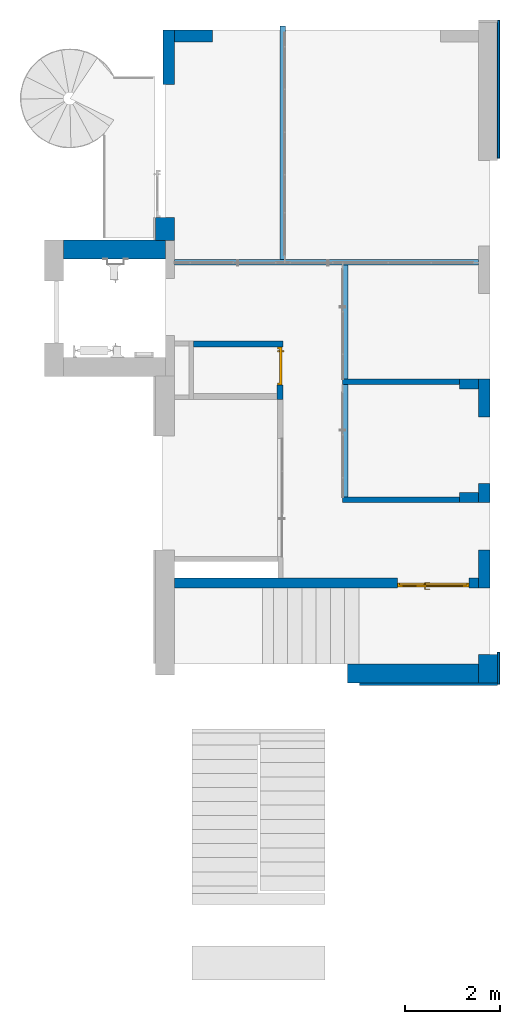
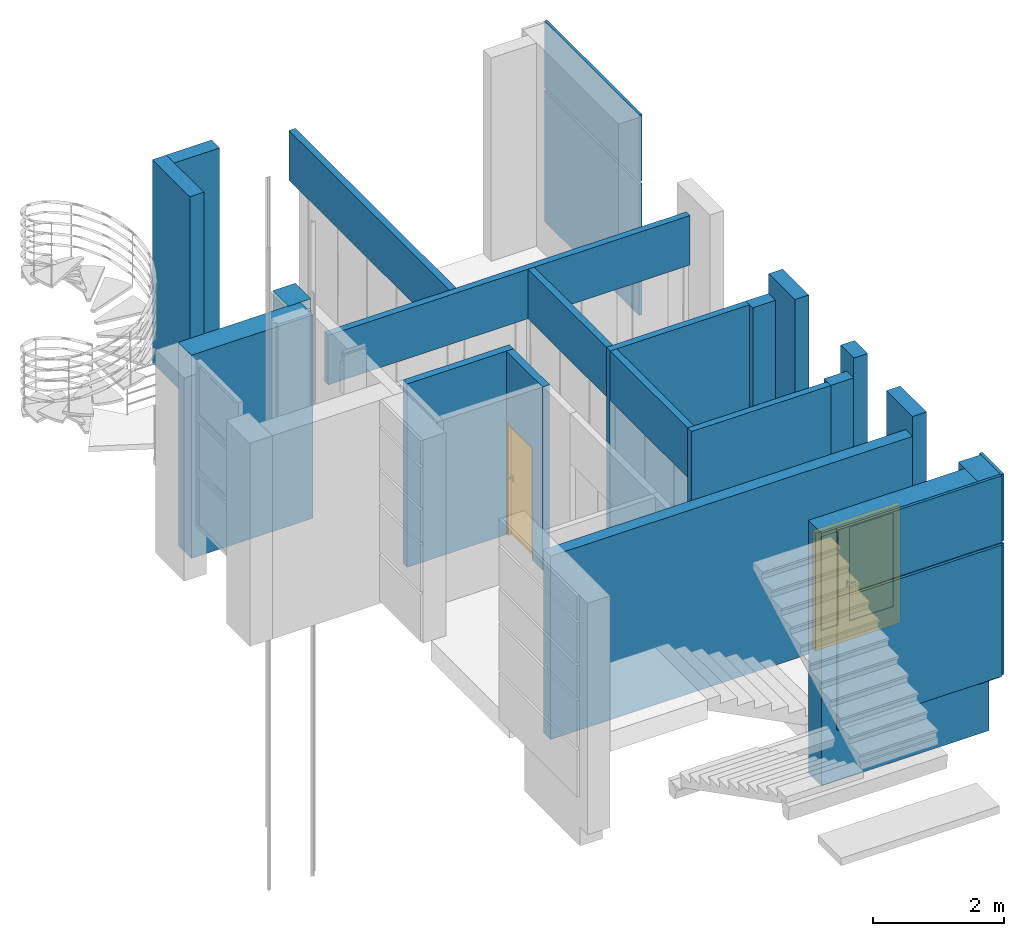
# One storey, part 6 of 14: 22 walls, 2 doors, 3 openings.
"""IFC2X3 building model written with IfcOpenShell, lengths in millimetres."""

from ifc_helpers import new_model, entity, si_unit, converted_unit, derived_unit, direction, frame, frame_2d, origin, origin_2d_with_axis, place, context, subcontext, project, spatial, rectangle, extrude, faceted_brep, source, transform, mapped, material, material_list, layer, layer_set, layer_usage, type_object, type_shapes, element, fill, save


model = new_model("IFC2X3")

# Units and contexts
model_context = context("Model", 3, precision=0.01, world=origin(), true_north=direction((6.12303176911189e-17, 1.0)))
body_context = subcontext(model_context, "Body", "Model", "MODEL_VIEW")
ifc_project = project(units=[si_unit("LENGTHUNIT", "METRE", prefix="MILLI"), si_unit("AREAUNIT", "SQUARE_METRE"), si_unit("VOLUMEUNIT", "CUBIC_METRE"), converted_unit("PLANEANGLEUNIT", "DEGREE", entity("IfcRatioMeasure", 0.0174532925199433), si_unit("PLANEANGLEUNIT", "RADIAN"), dimensions=[0, 0, 0, 0, 0, 0, 0]), si_unit("MASSUNIT", "GRAM", prefix="KILO"), derived_unit("MASSDENSITYUNIT", [(si_unit("MASSUNIT", "GRAM", prefix="KILO"), 1), (si_unit("LENGTHUNIT", "METRE"), -3)]), si_unit("TIMEUNIT", "SECOND"), si_unit("FREQUENCYUNIT", "HERTZ"), si_unit("THERMODYNAMICTEMPERATUREUNIT", "DEGREE_CELSIUS"), derived_unit("THERMALTRANSMITTANCEUNIT", [(si_unit("MASSUNIT", "GRAM", prefix="KILO"), 1), (si_unit("THERMODYNAMICTEMPERATUREUNIT", "KELVIN"), -1), (si_unit("TIMEUNIT", "SECOND"), -3)]), derived_unit("VOLUMETRICFLOWRATEUNIT", [(si_unit("LENGTHUNIT", "METRE"), 3), (si_unit("TIMEUNIT", "SECOND"), -1)]), si_unit("ELECTRICCURRENTUNIT", "AMPERE"), si_unit("ELECTRICVOLTAGEUNIT", "VOLT"), si_unit("POWERUNIT", "WATT"), si_unit("FORCEUNIT", "NEWTON", prefix="KILO"), si_unit("ILLUMINANCEUNIT", "LUX"), si_unit("LUMINOUSFLUXUNIT", "LUMEN"), si_unit("LUMINOUSINTENSITYUNIT", "CANDELA"), derived_unit("USERDEFINED", [(si_unit("MASSUNIT", "GRAM", prefix="KILO"), -1), (si_unit("LENGTHUNIT", "METRE"), -2), (si_unit("TIMEUNIT", "SECOND"), 3), (si_unit("LUMINOUSFLUXUNIT", "LUMEN"), 1)]), derived_unit("LINEARVELOCITYUNIT", [(si_unit("LENGTHUNIT", "METRE"), 1), (si_unit("TIMEUNIT", "SECOND"), -1)]), si_unit("PRESSUREUNIT", "PASCAL"), derived_unit("USERDEFINED", [(si_unit("LENGTHUNIT", "METRE"), -2), (si_unit("MASSUNIT", "GRAM", prefix="KILO"), 1), (si_unit("TIMEUNIT", "SECOND"), -2)])], contexts=[model_context])

# Site, building, storey
site_placement = place(None, frame((-151.875543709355, 2715.0, 0.0)))
site = spatial("IfcSite", under=ifc_project, at=site_placement, Name="Surface", CompositionType="ELEMENT")
building_placement = place(site_placement, origin())
building = spatial("IfcBuilding", under=site, at=building_placement, CompositionType="ELEMENT")
storey_placement = place(building_placement, frame((0.0, 0.0, 3875.0)))
storey = spatial("IfcBuildingStorey", under=building, at=storey_placement, Name="uus 2 korrus", CompositionType="ELEMENT", Elevation=3875.00000000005)

# Walls
ifc_material_1 = material(Name="__Kips GN13_tava")
ifc_layer_1 = layer(ifc_material_1, 12.5)
ifc_layer_2 = layer(ifc_material_1, 12.5)
ifc_material_2 = material(Name="__Soojustus EPS")
ifc_layer_3 = layer(ifc_material_2, 66.0)
ifc_layer_4 = layer(ifc_material_1, 12.5)
ifc_layer_5 = layer(ifc_material_1, 12.5)
ifc_layer_set_1 = layer_set([ifc_layer_1, ifc_layer_2, ifc_layer_3, ifc_layer_4, ifc_layer_5], Name="Basic Wall:SS-3_Kipssein tava ruumide vahel")
ifc_layer_usage_1 = layer_usage(ifc_layer_set_1, "AXIS2", "NEGATIVE", 58.0)
wall_type_1 = type_object("IfcWallType", Name="Basic Wall:SS-3_Kipssein tava ruumide vahel", PredefinedType="STANDARD", material=ifc_layer_set_1)
wall_1_placement = place(storey_placement, frame((35530.8324752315, 16668.0448732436, 0.0)))
element("IfcWallStandardCase", 1, at=wall_1_placement, inside=storey, type_object=wall_type_1, material=ifc_layer_usage_1, Name="Basic Wall:SS-3_Kipssein tava ruumide vahel", ObjectType="Basic Wall:SS-3_Kipssein tava ruumide vahel", context=body_context, shape_type="SweptSolid", body=[
    extrude(rectangle(XDim=2464.2837929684, YDim=116.0, at=frame_2d((1232.1418964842, -2.30926389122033e-13), x_axis=(-1.0, 0.0))), origin(), (0.0, 0.0, 1.0), 3425.0),
])
ifc_layer_usage_2 = layer_usage(ifc_layer_set_1, "AXIS2", "NEGATIVE", 58.0)
wall_2_placement = place(storey_placement, frame((35530.8324752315, 19152.0897464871, 0.0)))
element("IfcWallStandardCase", 2, at=wall_2_placement, inside=storey, type_object=wall_type_1, material=ifc_layer_usage_2, Name="Basic Wall:SS-3_Kipssein tava ruumide vahel", ObjectType="Basic Wall:SS-3_Kipssein tava ruumide vahel", context=body_context, shape_type="SweptSolid", body=[
    extrude(rectangle(XDim=2464.2837929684, YDim=116.0, at=frame_2d((1232.1418964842, -2.30926389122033e-13), x_axis=(-1.0, 0.0))), origin(), (0.0, 0.0, 1.0), 3425.0),
])
ifc_layer_usage_3 = layer_usage(ifc_layer_set_1, "AXIS2", "NEGATIVE", 58.0)
wall_3_placement = place(storey_placement, frame((32001.6162682, 21668.0, 2500.0)))
element("IfcWallStandardCase", 3, at=wall_3_placement, inside=storey, type_object=wall_type_1, material=ifc_layer_usage_3, Name="Basic Wall:SS-3_Kipssein tava ruumide vahel", ObjectType="Basic Wall:SS-3_Kipssein tava ruumide vahel", context=body_context, shape_type="SweptSolid", body=[
    extrude(rectangle(XDim=6394.99999999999, YDim=116.0, at=frame_2d((3197.49999999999, -2.87769807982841e-13), x_axis=(-1.0, 0.0))), origin(), (0.0, 0.0, 1.0), 924.999999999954),
])
ifc_layer_usage_4 = layer_usage(ifc_layer_set_1, "AXIS2", "NEGATIVE", 58.0)
wall_4_placement = place(storey_placement, frame((34273.319652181, 26643.0, 2500.0), z_axis=(0.0, 0.0, 1.0), x_axis=(0.0, -1.0, 0.0)))
element("IfcWallStandardCase", 4, at=wall_4_placement, inside=storey, type_object=wall_type_1, material=ifc_layer_usage_4, Name="Basic Wall:SS-3_Kipssein tava ruumide vahel", ObjectType="Basic Wall:SS-3_Kipssein tava ruumide vahel", context=body_context, shape_type="SweptSolid", body=[
    extrude(rectangle(XDim=4917.00002656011, YDim=116.0, at=frame_2d((2458.50001328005, 2.66453525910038e-13), x_axis=(-1.0, 0.0))), origin(), (0.0, 0.0, 1.0), 924.999999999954),
])
ifc_layer_usage_5 = layer_usage(ifc_layer_set_1, "AXIS2", "NEGATIVE", 58.0)
wall_5_placement = place(storey_placement, frame((35588.8324752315, 19094.0897464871, 2500.0), z_axis=(0.0, 0.0, 1.0), x_axis=(0.0, -1.0, 0.0)))
element("IfcWallStandardCase", 5, at=wall_5_placement, inside=storey, type_object=wall_type_1, material=ifc_layer_usage_5, Name="Basic Wall:SS-3_Kipssein tava ruumide vahel", ObjectType="Basic Wall:SS-3_Kipssein tava ruumide vahel", context=body_context, shape_type="SweptSolid", body=[
    extrude(rectangle(XDim=2368.04487324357, YDim=116.0, at=frame_2d((1184.02243662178, -1.56319401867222e-13), x_axis=(-1.0, 0.0))), origin(), (0.0, 0.0, 1.0), 925.0),
])
ifc_layer_usage_6 = layer_usage(ifc_layer_set_1, "AXIS2", "NEGATIVE", 58.0)
wall_6_placement = place(storey_placement, frame((35588.8324752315, 21610.0, 2500.0), z_axis=(0.0, 0.0, 1.0), x_axis=(0.0, -1.0, 0.0)))
element("IfcWallStandardCase", 6, at=wall_6_placement, inside=storey, type_object=wall_type_1, material=ifc_layer_usage_6, Name="Basic Wall:SS-3_Kipssein tava ruumide vahel", ObjectType="Basic Wall:SS-3_Kipssein tava ruumide vahel", context=body_context, shape_type="SweptSolid", body=[
    extrude(rectangle(XDim=2399.91025351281, YDim=116.0, at=frame_2d((1199.9551267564, -7.105427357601e-14), x_axis=(-1.0, 0.0))), origin(), (0.0, 0.0, 1.0), 924.999999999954),
])
ifc_material_3 = material(Name="__Tuuletõkkeplaat")
ifc_layer_6 = layer(ifc_material_3, 9.0)
ifc_layer_7 = layer(ifc_material_2, 200.0)
ifc_material_4 = material(Name="__Kergblokk")
ifc_layer_8 = layer(ifc_material_4, 190.0)
ifc_layer_set_2 = layer_set([ifc_layer_6, ifc_layer_7, ifc_layer_8], Name="Basic Wall:VS-2.2_Juurdeehituse välissein")
ifc_layer_usage_7 = layer_usage(ifc_layer_set_2, "AXIS2", "POSITIVE", -199.5)
wall_type_2 = type_object("IfcWallType", Name="Basic Wall:VS-2.2_Juurdeehituse välissein", PredefinedType="STANDARD", material=ifc_layer_set_2)
wall_7_placement = place(storey_placement, frame((38596.1162681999, 12811.0, 0.0), z_axis=(0.0, 0.0, 1.0), x_axis=(0.0, 1.0, 0.0)))
element("IfcWallStandardCase", 7, at=wall_7_placement, inside=storey, type_object=wall_type_2, material=ifc_layer_usage_7, Name="Basic Wall:VS-2.2_Juurdeehituse välissein", ObjectType="Basic Wall:VS-2.2_Juurdeehituse välissein", context=body_context, shape_type="SweptSolid", body=[
    extrude(rectangle(XDim=598.955126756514, YDim=398.999999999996, at=frame_2d((299.477563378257, 1.4210854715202e-14), x_axis=(-1.0, 0.0))), origin(), (0.0, 0.0, 1.0), 3795.0),
])
ifc_layer_usage_8 = layer_usage(ifc_layer_set_2, "AXIS2", "POSITIVE", -199.5)
wall_8_placement = place(storey_placement, frame((35636.6162682, 13010.5000000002, -925.0)))
element("IfcWallStandardCase", 8, at=wall_8_placement, inside=storey, type_object=wall_type_2, material=ifc_layer_usage_8, Name="Basic Wall:VS-2.2_Juurdeehituse välissein", ObjectType="Basic Wall:VS-2.2_Juurdeehituse välissein", context=body_context, shape_type="SweptSolid", body=[
    extrude(rectangle(XDim=2959.50000000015, YDim=399.0, at=frame_2d((1479.75000000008, 1.56319401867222e-13), x_axis=(-1.0, 0.0))), origin(), (0.0, 0.0, 1.0), 4719.99999999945),
])
ifc_layer_usage_9 = layer_usage(ifc_layer_set_2, "AXIS2", "POSITIVE", -199.5)
wall_9_placement = place(storey_placement, frame((31811.6162682, 21939.5000001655, 0.0), z_axis=(0.0, 0.0, 1.0), x_axis=(-1.0, 0.0, 0.0)))
element("IfcWallStandardCase", 9, at=wall_9_placement, inside=storey, type_object=wall_type_2, material=ifc_layer_usage_9, Name="Basic Wall:VS-2.2_Juurdeehituse välissein", ObjectType="Basic Wall:VS-2.2_Juurdeehituse välissein", context=body_context, shape_type="SweptSolid", body=[
    extrude(rectangle(XDim=2149.99850106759, YDim=398.999999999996, at=frame_2d((1074.99925053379, 1.27897692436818e-13), x_axis=(-1.0, 0.0))), origin(), (0.0, 0.0, 1.0), 3795.0),
])
ifc_layer_usage_10 = layer_usage(ifc_layer_set_2, "AXIS2", "NEGATIVE", 199.5)
wall_10_placement = place(storey_placement, frame((31802.1162682, 22130.0, 0.0), z_axis=(0.0, 0.0, 1.0), x_axis=(0.0, 1.0, 0.0)))
element("IfcWallStandardCase", 10, at=wall_10_placement, inside=storey, type_object=wall_type_2, material=ifc_layer_usage_10, Name="Basic Wall:VS-2.2_Juurdeehituse välissein", ObjectType="Basic Wall:VS-2.2_Juurdeehituse välissein", context=body_context, shape_type="SweptSolid", body=[
    extrude(rectangle(XDim=479.999999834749, YDim=398.999999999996, at=frame_2d((239.999999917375, 0.0), x_axis=(-1.0, 0.0))), origin(), (0.0, 0.0, 1.0), 3795.0),
])

# Wall, opening
ifc_layer_9 = layer(ifc_material_1, 12.5)
ifc_layer_10 = layer(ifc_material_1, 12.5)
ifc_layer_11 = layer(ifc_material_2, 66.0)
ifc_material_5 = material(Name="__Kips GKB_niiskuskindel")
ifc_layer_12 = layer(ifc_material_5, 12.5)
ifc_layer_13 = layer(ifc_material_5, 12.5)
ifc_material_6 = material(Name="Keraamiline_plaat")
ifc_layer_14 = layer(ifc_material_6, 10.0)
ifc_layer_set_3 = layer_set([ifc_layer_9, ifc_layer_10, ifc_layer_11, ifc_layer_12, ifc_layer_13, ifc_layer_14], Name="Basic Wall:SS-4_Kipssein tava ja niiske ruumi vahel")
ifc_layer_usage_11 = layer_usage(ifc_layer_set_3, "AXIS2", "NEGATIVE", 63.0)
wall_type_3 = type_object("IfcWallType", Name="Basic Wall:SS-4_Kipssein tava ja niiske ruumi vahel", PredefinedType="STANDARD", material=ifc_layer_set_3)
wall_11_placement = place(storey_placement, frame((32401.6162682, 19946.9542610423, 0.0)))
wall_11 = element("IfcWallStandardCase", 11, at=wall_11_placement, inside=storey, type_object=wall_type_3, material=ifc_layer_usage_11, Name="Basic Wall:SS-4_Kipssein tava ja niiske ruumi vahel", ObjectType="Basic Wall:SS-4_Kipssein tava ja niiske ruumi vahel", context=body_context, shape_type="SweptSolid", body=[
    extrude(rectangle(XDim=1879.39756730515, YDim=125.999999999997, at=frame_2d((939.698783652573, -1.20436993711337e-12), x_axis=(-1.0, 0.0))), origin(), (0.0, 0.0, 1.0), 3425.0),
])
opening_1_placement = place(wall_11_placement, origin())
element("IfcOpeningElement", 12, at=opening_1_placement, cuts=wall_11, Name="Basic Wall:SS-4_Kipssein tava ja niiske ruumi vahel", ObjectType="Opening", context=body_context, shape_type="SweptSolid", body=[
    extrude(rectangle(XDim=2099.99999999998, YDim=126.000000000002, at=frame_2d((-2.16715534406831e-12, -3.41060513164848e-13), x_axis=(0.0, 1.0))), frame((1816.39756730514, -863.028377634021, 1050.0), z_axis=(0.0, 1.0, 0.0), x_axis=(1.0, 0.0, 0.0)), (0.0, 0.0, 1.0), 799.999999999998),
])

# Wall, opening, door
ifc_layer_usage_12 = layer_usage(ifc_layer_set_3, "AXIS2", "NEGATIVE", 63.0)
wall_12_placement = place(storey_placement, frame((34218.0138355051, 19883.9542610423, 0.0), z_axis=(0.0, 0.0, 1.0), x_axis=(0.0, -1.0, 0.0)))
wall_12 = element("IfcWallStandardCase", 13, at=wall_12_placement, inside=storey, type_object=wall_type_3, material=ifc_layer_usage_12, Name="Basic Wall:SS-4_Kipssein tava ja niiske ruumi vahel", ObjectType="Basic Wall:SS-4_Kipssein tava ja niiske ruumi vahel", context=body_context, shape_type="SweptSolid", body=[
    extrude(rectangle(XDim=1105.9832579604, YDim=125.999999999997, at=frame_2d((552.9916289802, -8.10018718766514e-13), x_axis=(-1.0, 0.0))), origin(), (0.0, 0.0, 1.0), 3425.0),
])
opening_2_placement = place(wall_12_placement, frame((0.0283776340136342, -63.0, 0.0)))
opening_2 = element("IfcOpeningElement", 14, at=opening_2_placement, cuts=wall_12, Name="Ühepoolsed:SU-05:1", ObjectType="Opening", context=body_context, shape_type="SweptSolid", body=[
    extrude(rectangle(XDim=2099.99999999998, YDim=800.0, at=frame_2d((1049.99999999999, 400.0), x_axis=(1.0, 0.0))), frame((0.0, 0.0, 0.0), z_axis=(0.0, 1.0, 0.0), x_axis=(0.0, 0.0, 1.0)), (0.0, 0.0, 1.0), 126.0),
])
ifc_material_7 = material(Name="_Alumiiniumprofiil - must")
ifc_material_8 = material(Name="__Uks_hele tamm")
ifc_material_list_1 = material_list([ifc_material_7, ifc_material_8])
ifc_material_list_2 = material_list([ifc_material_7, ifc_material_8])
door_style_1 = type_object("IfcDoorStyle", Name="SU-05", ConstructionType="NOTDEFINED", OperationType="FOLDING_TO_RIGHT", ParameterTakesPrecedence=False, Sizeable=False, material=ifc_material_list_2)
shared_shape_1 = source(origin(), body_context, "Body", "Brep", [
    faceted_brep([(100.0, 16.0, 1112.5), (100.0, 54.0, 1112.5), (75.0, 54.0, 1112.5), (75.0, 11.0, 1112.5), (195.0, 11.0, 1112.5), (195.0, 16.0, 1112.5), (100.0, 16.0, 1087.5), (195.0, 16.0, 1087.5), (195.0, 11.0, 1087.5), (75.0, 11.0, 1087.5), (75.0, 54.0, 1087.5), (100.0, 54.0, 1087.5)], [[[0, 1, 2, 3, 4, 5]], [[6, 7, 8, 9, 10, 11]], [[1, 0, 6, 11]], [[2, 1, 11, 10]], [[3, 2, 10, 9]], [[4, 3, 9, 8]], [[5, 4, 8, 7]], [[0, 5, 7, 6]]]),
    faceted_brep([(112.5, 54.0, 1137.5), (112.5, 56.0, 1137.5), (62.5000000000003, 56.0, 1137.5), (62.5000000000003, 54.0, 1137.5), (112.5, 54.0, 1017.5), (62.5000000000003, 54.0, 1017.5), (62.5000000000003, 56.0, 1017.5), (112.5, 56.0, 1017.5)], [[[0, 1, 2, 3]], [[4, 5, 6, 7]], [[1, 0, 4, 7]], [[2, 1, 7, 6]], [[3, 2, 6, 5]], [[0, 3, 5, 4]]]),
    faceted_brep([(100.0, 146.0, 1112.5), (195.0, 146.0, 1112.5), (195.0, 151.0, 1112.5), (75.0, 151.0, 1112.5), (75.0, 108.0, 1112.5), (100.0, 108.0, 1112.5), (100.0, 146.0, 1087.5), (100.0, 108.0, 1087.5), (75.0, 108.0, 1087.5), (75.0, 151.0, 1087.5), (195.0, 151.0, 1087.5), (195.0, 146.0, 1087.5)], [[[0, 1, 2, 3, 4, 5]], [[6, 7, 8, 9, 10, 11]], [[5, 7, 6, 0]], [[4, 8, 7, 5]], [[3, 9, 8, 4]], [[2, 10, 9, 3]], [[1, 11, 10, 2]], [[0, 6, 11, 1]]]),
    faceted_brep([(112.5, 108.0, 1137.5), (62.5000000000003, 108.0, 1137.5), (62.5000000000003, 106.0, 1137.5), (112.5, 106.0, 1137.5), (112.5, 108.0, 1017.5), (112.5, 106.0, 1017.5), (62.5000000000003, 106.0, 1017.5), (62.5000000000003, 108.0, 1017.5)], [[[0, 1, 2, 3]], [[4, 5, 6, 7]], [[3, 5, 4, 0]], [[2, 6, 5, 3]], [[1, 7, 6, 2]], [[0, 4, 7, 1]]]),
    faceted_brep([(800.0, 16.0, 0.0), (760.0, 16.0, 0.0), (760.0, 56.0, 0.0), (775.0, 56.0, 0.0), (775.0, 106.0, 0.0), (800.0, 106.0, 0.0), (800.0, 16.0, 2100.0), (0.0, 16.0, 2100.0), (0.0, 16.0, 0.0), (40.0, 16.0, 0.0), (40.0, 16.0, 2060.0), (760.0, 16.0, 2060.0), (760.0, 56.0, 2060.0), (40.0, 56.0, 2060.0), (40.0, 56.0, 0.0), (25.0, 56.0, 0.0), (25.0, 56.0, 2075.0), (775.0, 56.0, 2075.0), (775.0, 106.0, 2075.0), (25.0, 106.0, 2075.0), (25.0, 106.0, 0.0), (0.0, 106.0, 0.0), (0.0, 106.0, 2100.0), (800.0, 106.0, 2100.0)], [[[0, 1, 2, 3, 4, 5]], [[1, 0, 6, 7, 8, 9, 10, 11]], [[2, 1, 11, 12]], [[3, 2, 12, 13, 14, 15, 16, 17]], [[4, 3, 17, 18]], [[5, 4, 18, 19, 20, 21, 22, 23]], [[0, 5, 23, 6]], [[8, 7, 22, 21]], [[9, 8, 21, 20, 15, 14]], [[10, 9, 14, 13]], [[16, 15, 20, 19]], [[11, 10, 13, 12]], [[17, 16, 19, 18]], [[7, 6, 23, 22]]]),
    faceted_brep([(25.0, 56.0, 2075.0), (25.0, 56.0, 20.0), (775.0, 56.0, 20.0), (775.0, 56.0, 2075.0), (25.0, 106.0, 2075.0), (775.0, 106.0, 2075.0), (775.0, 106.0, 20.0), (25.0, 106.0, 20.0)], [[[0, 1, 2, 3]], [[4, 5, 6, 7]], [[1, 0, 4, 7]], [[2, 1, 7, 6]], [[3, 2, 6, 5]], [[0, 3, 5, 4]]]),
])
type_shapes(door_style_1, [shared_shape_1])
door_1_placement = place(opening_2_placement, origin())
door_1 = element("IfcDoor", 15, at=door_1_placement, inside=storey, type_object=door_style_1, material=ifc_material_list_1, Name="Ühepoolsed:SU-05", ObjectType="SU-05", OverallHeight=2099.99999999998, OverallWidth=800.0, context=body_context, shape_type="MappedRepresentation", body=[
    mapped(shared_shape_1, transform((0.0, 0.0, 0.0), scale=1.0)),
])
fill(opening_2, door_1)

ifc_material_9 = material(Name="__Hall krohv")
ifc_layer_15 = layer(ifc_material_9, 10.0)
ifc_layer_16 = layer(ifc_material_4, 190.0)
ifc_layer_17 = layer(ifc_material_9, 10.0)
ifc_layer_set_4 = layer_set([ifc_layer_15, ifc_layer_16, ifc_layer_17], Name="Basic Wall:SS-2.1_Columbia kivi EI-60 sein")
ifc_layer_usage_13 = layer_usage(ifc_layer_set_4, "AXIS2", "NEGATIVE", 105.0)
wall_type_4 = type_object("IfcWallType", Name="Basic Wall:SS-2.1_Columbia kivi EI-60 sein", PredefinedType="STANDARD", material=ifc_layer_set_4)
wall_13_placement = place(storey_placement, frame((32001.6162682, 14915.0, 0.0)))
wall_13 = element("IfcWallStandardCase", 16, at=wall_13_placement, inside=storey, type_object=wall_type_4, material=ifc_layer_usage_13, Name="Basic Wall:SS-2.1_Columbia kivi EI-60 sein", ObjectType="Basic Wall:SS-2.1_Columbia kivi EI-60 sein", context=body_context, shape_type="SweptSolid", body=[
    extrude(rectangle(XDim=6394.99999999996, YDim=210.0, at=frame_2d((3197.49999999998, -1.98951966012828e-13), x_axis=(-1.0, 0.0))), origin(), (0.0, 0.0, 1.0), 3425.0),
])
opening_3_placement = place(wall_13_placement, frame((6194.0, 105.0, 0.0)))
opening_3 = element("IfcOpeningElement", 17, at=opening_3_placement, cuts=wall_13, Name="Kahepoolsed:SU-14.:1", ObjectType="Opening", context=body_context, shape_type="SweptSolid", body=[
    extrude(rectangle(XDim=2199.99999999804, YDim=1500.0, at=frame_2d((1099.99999999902, 750.0), x_axis=(1.0, 0.0))), frame((0.0, 0.0, 0.0), z_axis=(0.0, -1.0, 0.0), x_axis=(0.0, 0.0, 1.0)), (0.0, 0.0, 1.0), 210.0),
])
ifc_material_10 = material(Name="EP Tavallinen lasi")
ifc_material_list_3 = material_list([ifc_material_7, ifc_material_8, ifc_material_10])
ifc_material_list_4 = material_list([ifc_material_7, ifc_material_8, ifc_material_10])
door_style_2 = type_object("IfcDoorStyle", Name="SU-14.", ConstructionType="NOTDEFINED", OperationType="FOLDING_TO_RIGHT", ParameterTakesPrecedence=False, Sizeable=False, material=ifc_material_list_4)
shared_shape_2 = source(origin(), body_context, "Body", "Brep", [
    faceted_brep([(912.499999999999, 100.0, 1100.0), (817.499999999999, 100.0, 1100.0), (817.499999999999, 95.0, 1100.0), (937.5, 95.0, 1100.0), (937.5, 138.0, 1100.0), (912.5, 138.0, 1100.0), (912.499999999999, 100.0, 1075.0), (912.5, 138.0, 1075.0), (937.5, 138.0, 1075.0), (937.5, 95.0, 1075.0), (817.499999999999, 95.0, 1075.0), (817.499999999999, 100.0, 1075.0)], [[[0, 1, 2, 3, 4, 5]], [[6, 7, 8, 9, 10, 11]], [[5, 7, 6, 0]], [[4, 8, 7, 5]], [[3, 9, 8, 4]], [[2, 10, 9, 3]], [[1, 11, 10, 2]], [[0, 6, 11, 1]]]),
    faceted_brep([(900.0, 138.0, 1125.0), (950.0, 138.0, 1125.0), (950.0, 140.0, 1125.0), (900.0, 140.0, 1125.0), (900.0, 138.0, 1005.0), (900.0, 140.0, 1005.0), (950.0, 140.0, 1005.0), (950.0, 138.0, 1005.0)], [[[0, 1, 2, 3]], [[4, 5, 6, 7]], [[3, 5, 4, 0]], [[2, 6, 5, 3]], [[1, 7, 6, 2]], [[0, 4, 7, 1]]]),
    faceted_brep([(912.499999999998, 230.0, 1100.0), (912.499999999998, 192.0, 1100.0), (937.499999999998, 192.0, 1100.0), (937.499999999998, 235.0, 1100.0), (817.499999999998, 235.0, 1100.0), (817.499999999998, 230.0, 1100.0), (912.499999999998, 230.0, 1075.0), (817.499999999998, 230.0, 1075.0), (817.499999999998, 235.0, 1075.0), (937.499999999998, 235.0, 1075.0), (937.499999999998, 192.0, 1075.0), (912.499999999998, 192.0, 1075.0)], [[[0, 1, 2, 3, 4, 5]], [[6, 7, 8, 9, 10, 11]], [[1, 0, 6, 11]], [[2, 1, 11, 10]], [[3, 2, 10, 9]], [[4, 3, 9, 8]], [[5, 4, 8, 7]], [[0, 5, 7, 6]]]),
    faceted_brep([(900.0, 192.0, 1125.0), (900.0, 190.0, 1125.0), (950.0, 190.0, 1125.0), (950.0, 192.0, 1125.0), (900.0, 192.0, 1005.0), (950.0, 192.0, 1005.0), (950.0, 190.0, 1005.0), (900.0, 190.0, 1005.0)], [[[0, 1, 2, 3]], [[4, 5, 6, 7]], [[1, 0, 4, 7]], [[2, 1, 7, 6]], [[3, 2, 6, 5]], [[0, 3, 5, 4]]]),
    faceted_brep([(1460.0, 100.0, 30.0), (1460.0, 100.0, 0.0), (1460.0, 140.0, 0.0), (1460.0, 140.0, 20.0), (1460.0, 140.0, 30.0), (40.0, 100.0, 30.0), (40.0, 140.0, 30.0), (40.0, 140.0, 20.0), (40.0, 140.0, 0.0), (40.0, 100.0, 0.0), (25.0, 140.0, 0.0), (25.0, 190.0, 0.0), (1475.0, 190.0, 0.0), (1475.0, 140.0, 0.0), (1475.0, 190.0, 20.0), (1475.0, 140.0, 20.0), (25.0, 190.0, 20.0), (25.0, 140.0, 20.0)], [[[0, 1, 2, 3, 4]], [[5, 6, 7, 8, 9]], [[1, 0, 5, 9]], [[2, 1, 9, 8, 10, 11, 12, 13]], [[6, 4, 3, 7]], [[0, 4, 6, 5]], [[14, 15, 13, 12]], [[16, 11, 10, 17]], [[15, 14, 16, 17, 7, 3]], [[13, 15, 3, 2]], [[14, 12, 11, 16]], [[17, 10, 8, 7]]]),
    faceted_brep([(1500.0, 100.0, 0.0), (1460.0, 100.0, 0.0), (1460.0, 140.0, 0.0), (1475.0, 140.0, 0.0), (1475.0, 190.0, 0.0), (1500.0, 190.0, 0.0), (1500.0, 100.0, 2200.0), (0.0, 100.0, 2200.0), (0.0, 100.0, 0.0), (40.0, 100.0, 0.0), (40.0, 100.0, 2160.0), (1460.0, 100.0, 2160.0), (1460.0, 140.0, 2160.0), (40.0, 140.0, 2160.0), (40.0, 140.0, 0.0), (25.0, 140.0, 0.0), (25.0, 140.0, 2175.0), (1475.0, 140.0, 2175.0), (1475.0, 190.0, 2175.0), (25.0, 190.0, 2175.0), (25.0, 190.0, 0.0), (0.0, 190.0, 0.0), (0.0, 190.0, 2200.0), (1500.0, 190.0, 2200.0)], [[[0, 1, 2, 3, 4, 5]], [[1, 0, 6, 7, 8, 9, 10, 11]], [[2, 1, 11, 12]], [[3, 2, 12, 13, 14, 15, 16, 17]], [[4, 3, 17, 18]], [[5, 4, 18, 19, 20, 21, 22, 23]], [[0, 5, 23, 6]], [[8, 7, 22, 21]], [[9, 8, 21, 20, 15, 14]], [[10, 9, 14, 13]], [[16, 15, 20, 19]], [[11, 10, 13, 12]], [[17, 16, 19, 18]], [[7, 6, 23, 22]]]),
    faceted_brep([(125.0, 155.0, 350.0), (900.0, 155.0, 350.0), (900.0, 155.0, 2100.0), (125.0, 155.0, 2100.0), (125.0, 175.0, 350.0), (125.0, 175.0, 2100.0), (900.0, 175.0, 2100.0), (900.0, 175.0, 350.0)], [[[0, 1, 2, 3]], [[4, 5, 6, 7]], [[1, 0, 4, 7]], [[2, 1, 7, 6]], [[3, 2, 6, 5]], [[0, 3, 5, 4]]]),
    faceted_brep([(1100.0, 155.0, 350.0), (1400.0, 155.0, 350.0), (1400.0, 155.0, 2100.0), (1100.0, 155.0, 2100.0), (1100.0, 175.0, 350.0), (1100.0, 175.0, 2100.0), (1400.0, 175.0, 2100.0), (1400.0, 175.0, 350.0)], [[[0, 1, 2, 3]], [[4, 5, 6, 7]], [[1, 0, 4, 7]], [[2, 1, 7, 6]], [[3, 2, 6, 5]], [[0, 3, 5, 4]]]),
    faceted_brep([(1000.0, 140.0, 2175.0), (25.0, 140.0, 2175.0), (25.0, 140.0, 20.0), (1000.0, 140.0, 20.0), (125.0, 140.0, 350.0), (125.0, 140.0, 2100.0), (900.0, 140.0, 2100.0), (900.0, 140.0, 350.0), (1000.0, 190.0, 2175.0), (1000.0, 190.0, 20.0), (25.0, 190.0, 20.0), (25.0, 190.0, 2175.0), (125.0, 190.0, 2100.0), (125.0, 190.0, 350.0), (900.0, 190.0, 350.0), (900.0, 190.0, 2100.0)], [[[0, 1, 2, 3], [4, 5, 6, 7]], [[8, 9, 10, 11], [12, 13, 14, 15]], [[1, 0, 8, 11]], [[2, 1, 11, 10]], [[3, 2, 10, 9]], [[0, 3, 9, 8]], [[12, 5, 4, 13]], [[13, 4, 7, 14]], [[14, 7, 6, 15]], [[5, 12, 15, 6]]]),
    faceted_brep([(1000.0, 140.0, 2175.0), (1000.0, 140.0, 20.0), (1475.0, 140.0, 20.0), (1475.0, 140.0, 2175.0), (1100.0, 140.0, 350.0), (1100.0, 140.0, 2100.0), (1400.0, 140.0, 2100.0), (1400.0, 140.0, 350.0), (1000.0, 190.0, 2175.0), (1475.0, 190.0, 2175.0), (1475.0, 190.0, 20.0), (1000.0, 190.0, 20.0), (1100.0, 190.0, 2100.0), (1100.0, 190.0, 350.0), (1400.0, 190.0, 350.0), (1400.0, 190.0, 2100.0)], [[[0, 1, 2, 3], [4, 5, 6, 7]], [[8, 9, 10, 11], [12, 13, 14, 15]], [[1, 0, 8, 11]], [[2, 1, 11, 10]], [[3, 2, 10, 9]], [[0, 3, 9, 8]], [[12, 5, 4, 13]], [[13, 4, 7, 14]], [[14, 7, 6, 15]], [[5, 12, 15, 6]]]),
])
type_shapes(door_style_2, [shared_shape_2])
door_2_placement = place(opening_3_placement, frame((0.0, 0.0, 0.0), z_axis=(0.0, 0.0, 1.0), x_axis=(-1.0, 0.0, 0.0)))
door_2 = element("IfcDoor", 18, at=door_2_placement, inside=storey, type_object=door_style_2, material=ifc_material_list_3, Name="Kahepoolsed:SU-14.", ObjectType="SU-14.", OverallHeight=2199.99999999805, OverallWidth=1500.0, context=body_context, shape_type="MappedRepresentation", body=[
    mapped(shared_shape_2, transform((0.0, 0.0, 0.0), scale=1.0)),
])
fill(opening_3, door_2)

# Walls
ifc_layer_usage_14 = layer_usage(ifc_layer_set_4, "AXIS2", "NEGATIVE", 105.0)
wall_14_placement = place(storey_placement, frame((37995.1162681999, 16715.0448732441, 0.0)))
element("IfcWallStandardCase", 19, at=wall_14_placement, inside=storey, type_object=wall_type_4, material=ifc_layer_usage_14, Name="Basic Wall:SS-2.1_Columbia kivi EI-60 sein", ObjectType="Basic Wall:SS-2.1_Columbia kivi EI-60 sein", context=body_context, shape_type="SweptSolid", body=[
    extrude(rectangle(XDim=401.500000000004, YDim=210.0, at=frame_2d((200.750000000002, -4.19220214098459e-13), x_axis=(-1.0, 0.0))), origin(), (0.0, 0.0, 1.0), 3425.0),
])
ifc_layer_usage_15 = layer_usage(ifc_layer_set_4, "AXIS2", "NEGATIVE", 105.0)
wall_15_placement = place(storey_placement, frame((37995.1162681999, 19105.0897464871, 0.0)))
element("IfcWallStandardCase", 20, at=wall_15_placement, inside=storey, type_object=wall_type_4, material=ifc_layer_usage_15, Name="Basic Wall:SS-2.1_Columbia kivi EI-60 sein", ObjectType="Basic Wall:SS-2.1_Columbia kivi EI-60 sein", context=body_context, shape_type="SweptSolid", body=[
    extrude(rectangle(XDim=401.500000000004, YDim=210.0, at=frame_2d((200.750000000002, -4.19220214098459e-13), x_axis=(-1.0, 0.0))), origin(), (0.0, 0.0, 1.0), 3425.0),
])
ifc_layer_18 = layer(ifc_material_2, 57.0)
ifc_layer_19 = layer(ifc_material_4, 190.0)
ifc_layer_set_5 = layer_set([ifc_layer_18, ifc_layer_19], Name="Basic Wall:VS-2.1_Juurdeehituse välissein 2")
ifc_layer_usage_16 = layer_usage(ifc_layer_set_5, "AXIS2", "NEGATIVE", 123.5)
wall_type_5 = type_object("IfcWallType", Name="Basic Wall:VS-2.1_Juurdeehituse välissein 2", PredefinedType="STANDARD", material=ifc_layer_set_5)
wall_16_placement = place(storey_placement, frame((38520.1162681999, 15610.0, 0.0), z_axis=(0.0, 0.0, 1.0), x_axis=(0.0, -1.0, 0.0)))
element("IfcWallStandardCase", 21, at=wall_16_placement, inside=storey, type_object=wall_type_5, material=ifc_layer_usage_16, Name="Basic Wall:VS-2.1_Juurdeehituse välissein 2", ObjectType="Basic Wall:VS-2.1_Juurdeehituse välissein 2", context=body_context, shape_type="SweptSolid", body=[
    extrude(rectangle(XDim=799.999999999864, YDim=246.999999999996, at=frame_2d((399.999999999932, -5.82645043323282e-13), x_axis=(-1.0, 0.0))), origin(), (0.0, 0.0, 1.0), 3795.0),
])
ifc_layer_usage_17 = layer_usage(ifc_layer_set_5, "AXIS2", "NEGATIVE", 123.5)
wall_17_placement = place(storey_placement, frame((38520.1162682, 17010.0448732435, 0.0), z_axis=(0.0, 0.0, 1.0), x_axis=(0.0, -1.0, 0.0)))
element("IfcWallStandardCase", 22, at=wall_17_placement, inside=storey, type_object=wall_type_5, material=ifc_layer_usage_17, Name="Basic Wall:VS-2.1_Juurdeehituse välissein 2", ObjectType="Basic Wall:VS-2.1_Juurdeehituse välissein 2", context=body_context, shape_type="SweptSolid", body=[
    extrude(rectangle(XDim=400.0, YDim=246.999999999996, at=frame_2d((200.0, -2.8421709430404e-13), x_axis=(-1.0, 0.0))), origin(), (0.0, 0.0, 1.0), 3795.0),
])
ifc_layer_usage_18 = layer_usage(ifc_layer_set_5, "AXIS2", "NEGATIVE", 123.5)
wall_18_placement = place(storey_placement, frame((38520.1162682, 19210.0897464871, 0.0), z_axis=(0.0, 0.0, 1.0), x_axis=(0.0, -1.0, 0.0)))
element("IfcWallStandardCase", 23, at=wall_18_placement, inside=storey, type_object=wall_type_5, material=ifc_layer_usage_18, Name="Basic Wall:VS-2.1_Juurdeehituse välissein 2", ObjectType="Basic Wall:VS-2.1_Juurdeehituse välissein 2", context=body_context, shape_type="SweptSolid", body=[
    extrude(rectangle(XDim=800.0, YDim=246.999999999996, at=frame_2d((400.0, -5.82645043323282e-13), x_axis=(-1.0, 0.0))), origin(), (0.0, 0.0, 1.0), 3795.0),
])
ifc_layer_usage_19 = layer_usage(ifc_layer_set_5, "AXIS2", "POSITIVE", -123.5)
wall_19_placement = place(storey_placement, frame((31878.1162682, 26557.0, 0.0), z_axis=(0.0, 0.0, 1.0), x_axis=(0.0, -1.0, 0.0)))
element("IfcWallStandardCase", 24, at=wall_19_placement, inside=storey, type_object=wall_type_5, material=ifc_layer_usage_19, Name="Basic Wall:VS-2.1_Juurdeehituse välissein 2", ObjectType="Basic Wall:VS-2.1_Juurdeehituse välissein 2", context=body_context, shape_type="SweptSolid", body=[
    extrude(rectangle(XDim=1146.74949025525, YDim=246.999999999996, at=frame_2d((573.374745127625, 1.84741111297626e-13), x_axis=(-1.0, 0.0))), origin(), (0.0, 0.0, 1.0), 3795.0),
])
ifc_layer_usage_20 = layer_usage(ifc_layer_set_5, "AXIS2", "POSITIVE", -123.5)
wall_20_placement = place(storey_placement, frame((32802.1162682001, 26433.50002656, 0.0), z_axis=(0.0, 0.0, 1.0), x_axis=(-1.0, 0.0, 0.0)))
element("IfcWallStandardCase", 25, at=wall_20_placement, inside=storey, type_object=wall_type_5, material=ifc_layer_usage_20, Name="Basic Wall:VS-2.1_Juurdeehituse välissein 2", ObjectType="Basic Wall:VS-2.1_Juurdeehituse välissein 2", context=body_context, shape_type="SweptSolid", body=[
    extrude(rectangle(XDim=800.500000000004, YDim=246.999999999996, at=frame_2d((400.250000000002, 1.46371803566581e-12), x_axis=(-1.0, 0.0))), origin(), (0.0, 0.0, 1.0), 3795.0),
])
ifc_material_11 = material(Name="Steel/Aluminium")
wall_type_6 = type_object("IfcWallType", Name="fassaad4.3:fassaad4.3", PredefinedType="NOTDEFINED", material=ifc_material_11)
wall_21_placement = place(storey_placement, frame((35895.6162681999, 12761.0, 50.0)))
element("IfcWall", 26, at=wall_21_placement, inside=storey, type_object=wall_type_6, material=ifc_material_11, Name="fassaad4.3:fassaad4.3", ObjectType="fassaad4.3:fassaad4.3", context=body_context, shape_type="SweptSolid", body=[
    extrude(rectangle(XDim=49.9999999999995, YDim=2900.0, at=frame_2d((1.08357767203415e-12, 0.0), x_axis=(1.0, 0.0))), frame((1450.0, 25.0, 2500.0), z_axis=(0.0, 0.0, 1.0), x_axis=(0.0, 1.0, 0.0)), (0.0, 0.0, 1.0), 1245.0),
    extrude(rectangle(XDim=49.9999999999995, YDim=2900.0, at=frame_2d((1.08357767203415e-12, 0.0), x_axis=(1.0, 0.0))), frame((1450.0, 25.0, 0.0), z_axis=(0.0, 0.0, 1.0), x_axis=(0.0, 1.0, 0.0)), (0.0, 0.0, 1.0), 2450.00000000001),
])
wall_type_7 = type_object("IfcWallType", Name="fassaad3.2:fassaad3.2", PredefinedType="NOTDEFINED", material=ifc_material_11)
wall_22_placement = place(storey_placement, frame((38795.6162681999, 12790.0442934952, 50.0), z_axis=(0.0, 0.0, 1.0), x_axis=(0.0, 1.0, 0.0)))
element("IfcWall", 27, at=wall_22_placement, inside=storey, type_object=wall_type_7, material=ifc_material_11, Name="fassaad3.2:fassaad3.2", ObjectType="fassaad3.2:fassaad3.2", context=body_context, shape_type="SweptSolid", body=[
    extrude(rectangle(XDim=50.0000000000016, YDim=2899.95512675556, at=origin_2d_with_axis()), frame((12520.0224366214, -25.0, 2500.0000146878), z_axis=(0.0, 0.0, 1.0), x_axis=(0.0, 1.0, 0.0)), (0.0, 0.0, 1.0), 1245.0),
    extrude(rectangle(XDim=50.0000000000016, YDim=666.738975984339, at=frame_2d((-2.16715534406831e-12, 1.10844666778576e-12), x_axis=(1.0, 0.0))), frame((333.369487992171, -25.0, 2500.0), z_axis=(0.0, 0.0, 1.0), x_axis=(0.0, 1.0, 0.0)), (0.0, 0.0, 1.0), 1245.0),
    extrude(rectangle(XDim=50.0000000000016, YDim=666.738975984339, at=frame_2d((-2.16715534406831e-12, 1.10844666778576e-12), x_axis=(1.0, 0.0))), frame((333.369487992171, -25.0, 0.0), z_axis=(0.0, 0.0, 1.0), x_axis=(0.0, 1.0, 0.0)), (0.0, 0.0, 1.0), 2450.0),
    extrude(rectangle(XDim=50.0000000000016, YDim=2899.95512675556, at=origin_2d_with_axis()), frame((12520.0224366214, -25.0, 1.46878067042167e-05), z_axis=(0.0, 0.0, 1.0), x_axis=(0.0, 1.0, 0.0)), (0.0, 0.0, 1.0), 2450.0),
])

save(model, "model.ifc")
